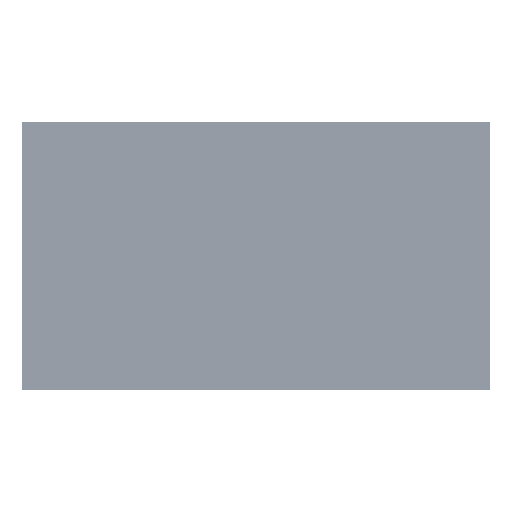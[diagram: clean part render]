
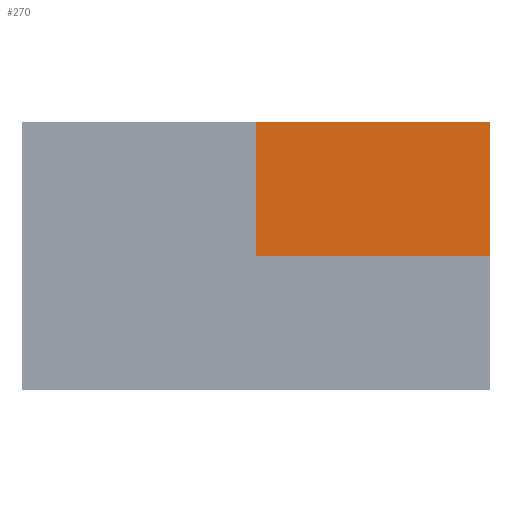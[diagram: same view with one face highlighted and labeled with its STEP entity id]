
A CAD part, top view. The second image highlights one B-rep face of the part: STEP entity #270.
In plain terms, the highlighted planar face has unit normal (0, 0, 1).
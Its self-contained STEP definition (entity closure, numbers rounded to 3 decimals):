
#270=ADVANCED_FACE($,(#684),#4066,.T.);
#684=FACE_OUTER_BOUND($,#1076,.T.);
#1076=EDGE_LOOP($,(#2114,#2115,#2116,#2117));
#2114=ORIENTED_EDGE($,*,*,#3086,.F.);
#2115=ORIENTED_EDGE($,*,*,#3083,.F.);
#2116=ORIENTED_EDGE($,*,*,#3099,.F.);
#2117=ORIENTED_EDGE($,*,*,#3094,.F.);
#3083=EDGE_CURVE($,#3635,#3637,#4679,.T.);
#3086=EDGE_CURVE($,#3637,#3643,#4682,.T.);
#3094=EDGE_CURVE($,#3643,#3640,#4690,.T.);
#3099=EDGE_CURVE($,#3640,#3635,#4695,.T.);
#3635=VERTEX_POINT($,#10457);
#3637=VERTEX_POINT($,#10459);
#3640=VERTEX_POINT($,#10462);
#3643=VERTEX_POINT($,#10465);
#4066=PLANE($,#4984);
#4679=B_SPLINE_CURVE_WITH_KNOTS($,1,(#10354,#10355),.UNSPECIFIED.,.F.,.F.,
(2,2),(0.,400.),.UNSPECIFIED.);
#4682=B_SPLINE_CURVE_WITH_KNOTS($,3,(#10362,#10363,#10364,#10365),.UNSPECIFIED.,
.F.,.F.,(4,4),(0.,700.),.UNSPECIFIED.);
#4690=B_SPLINE_CURVE_WITH_KNOTS($,3,(#10384,#10385,#10386,#10387),.UNSPECIFIED.,
.F.,.F.,(4,4),(-400.,0.),.UNSPECIFIED.);
#4695=B_SPLINE_CURVE_WITH_KNOTS($,1,(#10402,#10403),.UNSPECIFIED.,.F.,.F.,
(2,2),(1100.,1800.),.UNSPECIFIED.);
#4984=AXIS2_PLACEMENT_3D($,#10444,#5109,$);
#5109=DIRECTION($,(0.,0.,1.));
#10354=CARTESIAN_POINT($,(1794.5,729.,746.));
#10355=CARTESIAN_POINT($,(1794.5,329.,746.));
#10362=CARTESIAN_POINT($,(1794.5,329.,746.));
#10363=CARTESIAN_POINT($,(1561.167,329.,746.));
#10364=CARTESIAN_POINT($,(1327.833,329.,746.));
#10365=CARTESIAN_POINT($,(1094.5,329.,746.));
#10384=CARTESIAN_POINT($,(1094.5,329.,746.));
#10385=CARTESIAN_POINT($,(1094.5,462.333,746.));
#10386=CARTESIAN_POINT($,(1094.5,595.667,746.));
#10387=CARTESIAN_POINT($,(1094.5,729.,746.));
#10402=CARTESIAN_POINT($,(1094.5,729.,746.));
#10403=CARTESIAN_POINT($,(1794.5,729.,746.));
#10444=CARTESIAN_POINT($,(1094.5,329.,746.));
#10457=CARTESIAN_POINT($,(1794.5,729.,746.));
#10459=CARTESIAN_POINT($,(1794.5,329.,746.));
#10462=CARTESIAN_POINT($,(1094.5,729.,746.));
#10465=CARTESIAN_POINT($,(1094.5,329.,746.));
